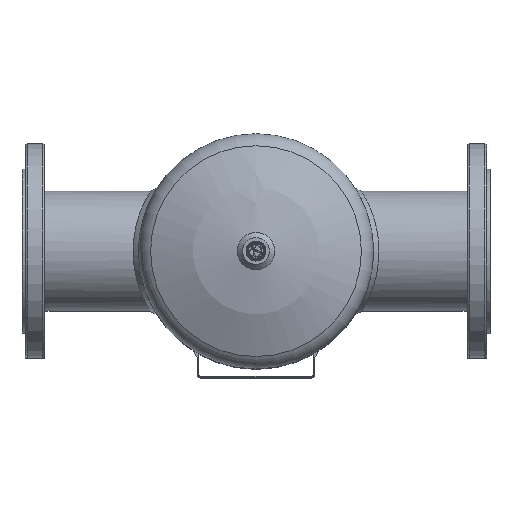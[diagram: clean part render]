
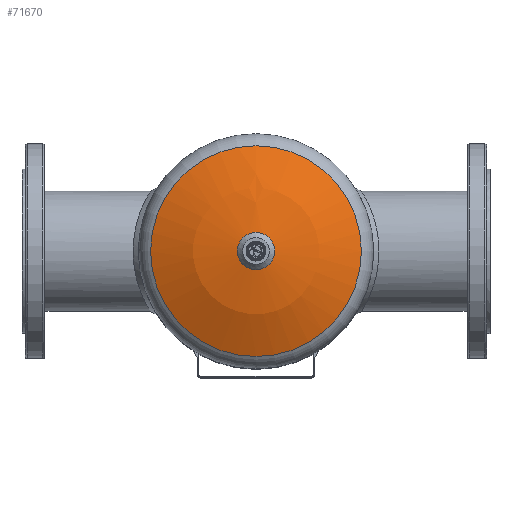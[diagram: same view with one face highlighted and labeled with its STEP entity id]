
A CAD part, top view. The second image highlights one B-rep face of the part: STEP entity #71670.
In plain terms, the highlighted spherical face has radius 273.2 mm.
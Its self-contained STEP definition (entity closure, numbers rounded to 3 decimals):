
#68=SPHERICAL_SURFACE('',#74824,273.2);
#8719=CIRCLE('',#74816,122.501);
#8724=CIRCLE('',#74825,21.678);
#9489=ORIENTED_EDGE('',*,*,#24494,.T.);
#9490=ORIENTED_EDGE('',*,*,#24126,.F.);
#24126=EDGE_CURVE('',#31643,#31643,#8719,.T.);
#24494=EDGE_CURVE('',#32011,#32011,#8724,.T.);
#31643=VERTEX_POINT('',#87909);
#32011=VERTEX_POINT('',#91915);
#40181=EDGE_LOOP('',(#9489));
#40182=EDGE_LOOP('',(#9490));
#43991=FACE_BOUND('',#40181,.T.);
#43992=FACE_BOUND('',#40182,.T.);
#71670=ADVANCED_FACE('',(#43991,#43992),#68,.T.);
#74816=AXIS2_PLACEMENT_3D('',#87908,#77515,#77516);
#74824=AXIS2_PLACEMENT_3D('',#91913,#77535,#77536);
#74825=AXIS2_PLACEMENT_3D('',#91914,#77537,#77538);
#77515=DIRECTION('',(0.,0.,-1.));
#77516=DIRECTION('',(-1.,0.,0.));
#77535=DIRECTION('',(0.,0.,-1.));
#77536=DIRECTION('',(1.,0.,0.));
#77537=DIRECTION('',(0.,0.,-1.));
#77538=DIRECTION('',(0.,1.,0.));
#87908=CARTESIAN_POINT('',(0.,0.002,153.423));
#87909=CARTESIAN_POINT('',(-122.501,0.002,153.423));
#91913=CARTESIAN_POINT('',(0.,0.002,-90.774));
#91914=CARTESIAN_POINT('',(0.,0.002,181.565));
#91915=CARTESIAN_POINT('',(0.,21.68,181.565));
